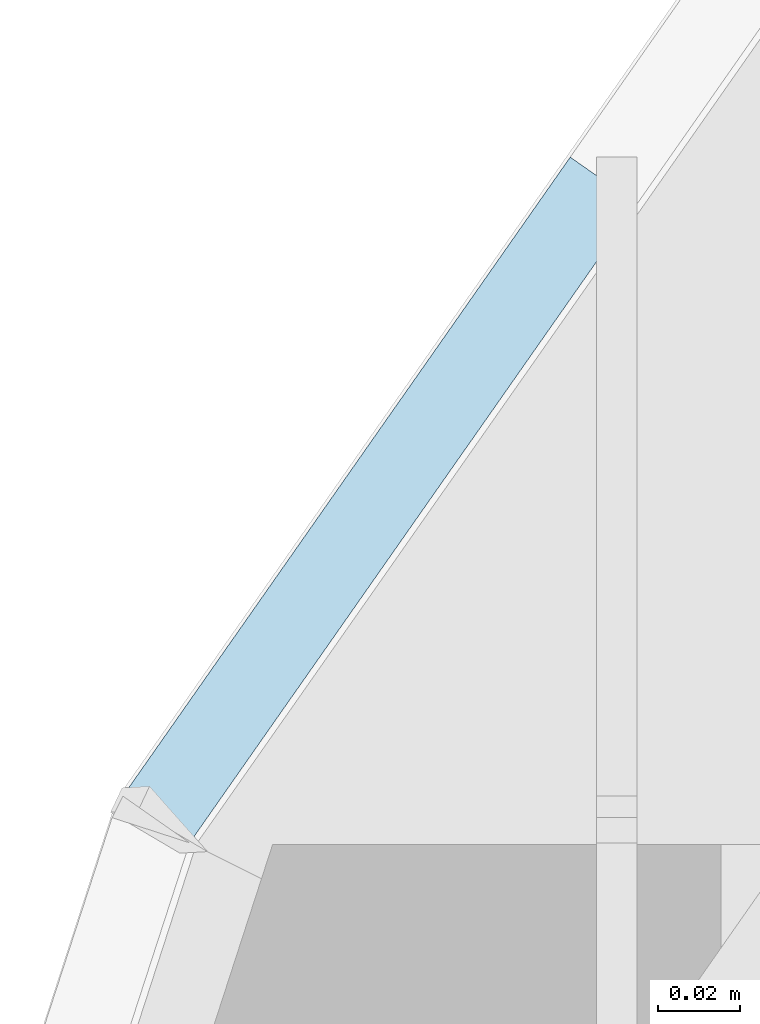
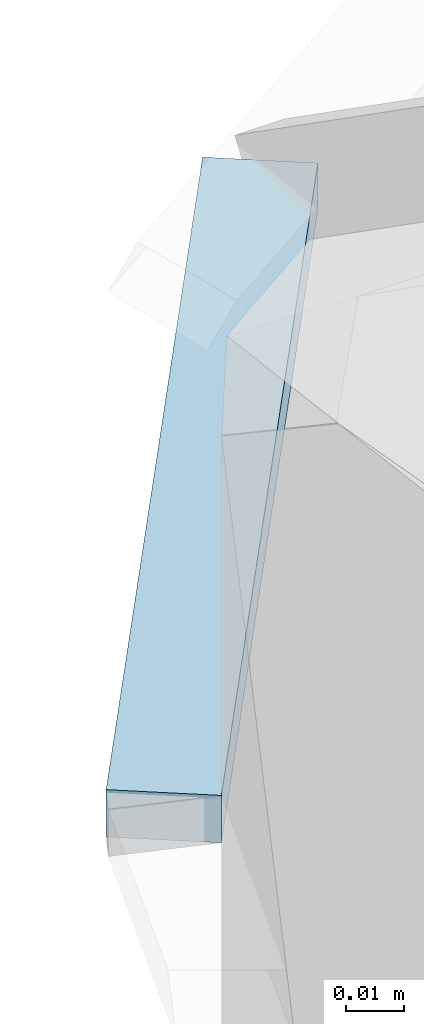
# One storey, part 304 of 583: 1 slab.
"""IFC2X3 building model written with IfcOpenShell, lengths in metres."""

from ifc_helpers import new_model, entity, si_unit, converted_unit, derived_unit, money_unit, direction, frame, origin_with_axes, place, context, subcontext, project, spatial, faceted_brep, material, type_object, element, save


model = new_model("IFC2X3")

# Units and contexts
model_context = context("Model", 3, precision=1e-05, world=origin_with_axes(), true_north=direction((0.0, 1.0)))
body_context = subcontext(model_context, "Body", "Model", "MODEL_VIEW", scale=1.0)
ifc_project = project(units=[si_unit("LENGTHUNIT", "METRE"), si_unit("AREAUNIT", "SQUARE_METRE"), si_unit("VOLUMEUNIT", "CUBIC_METRE"), si_unit("ABSORBEDDOSEUNIT", "GRAY"), si_unit("AMOUNTOFSUBSTANCEUNIT", "MOLE"), si_unit("DOSEEQUIVALENTUNIT", "SIEVERT"), si_unit("ELECTRICCAPACITANCEUNIT", "FARAD"), si_unit("ELECTRICCHARGEUNIT", "COULOMB"), si_unit("ELECTRICCONDUCTANCEUNIT", "SIEMENS"), si_unit("ELECTRICCURRENTUNIT", "AMPERE"), si_unit("ELECTRICRESISTANCEUNIT", "OHM"), si_unit("ELECTRICVOLTAGEUNIT", "VOLT"), si_unit("ENERGYUNIT", "JOULE"), si_unit("FORCEUNIT", "NEWTON"), si_unit("FREQUENCYUNIT", "HERTZ"), si_unit("ILLUMINANCEUNIT", "LUX"), si_unit("INDUCTANCEUNIT", "HENRY"), si_unit("LUMINOUSFLUXUNIT", "LUMEN"), si_unit("LUMINOUSINTENSITYUNIT", "CANDELA"), si_unit("MAGNETICFLUXDENSITYUNIT", "TESLA"), si_unit("MAGNETICFLUXUNIT", "WEBER"), si_unit("MASSUNIT", "GRAM"), converted_unit("PLANEANGLEUNIT", "degree", entity("IfcReal", 0.0174532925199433), si_unit("PLANEANGLEUNIT", "RADIAN"), dimensions=[0, 0, 0, 0, 0, 0, 0]), si_unit("POWERUNIT", "WATT"), si_unit("PRESSUREUNIT", "PASCAL"), si_unit("RADIOACTIVITYUNIT", "BECQUEREL"), si_unit("SOLIDANGLEUNIT", "STERADIAN"), si_unit("THERMODYNAMICTEMPERATUREUNIT", "KELVIN"), si_unit("TIMEUNIT", "SECOND"), derived_unit("ACCELERATIONUNIT", [(si_unit("LENGTHUNIT", "METRE"), 1), (si_unit("TIMEUNIT", "SECOND"), -2)]), derived_unit("ANGULARVELOCITYUNIT", [(converted_unit("PLANEANGLEUNIT", "degree", entity("IfcReal", 0.0174532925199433), si_unit("PLANEANGLEUNIT", "RADIAN"), dimensions=[0, 0, 0, 0, 0, 0, 0]), 1), (si_unit("TIMEUNIT", "SECOND"), -1)]), derived_unit("CURVATUREUNIT", [(converted_unit("PLANEANGLEUNIT", "degree", entity("IfcReal", 0.0174532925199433), si_unit("PLANEANGLEUNIT", "RADIAN"), dimensions=[0, 0, 0, 0, 0, 0, 0]), 1), (si_unit("LENGTHUNIT", "METRE"), -1)]), derived_unit("DYNAMICVISCOSITYUNIT", [(si_unit("PRESSUREUNIT", "PASCAL"), 1), (si_unit("TIMEUNIT", "SECOND"), 1)]), derived_unit("HEATFLUXDENSITYUNIT", [(si_unit("POWERUNIT", "WATT"), 1), (si_unit("LENGTHUNIT", "METRE"), -2)]), derived_unit("HEATINGVALUEUNIT", [(si_unit("ENERGYUNIT", "JOULE"), 1), (si_unit("MASSUNIT", "GRAM"), -1)]), derived_unit("INTEGERCOUNTRATEUNIT", [(si_unit("TIMEUNIT", "SECOND"), -1)]), derived_unit("IONCONCENTRATIONUNIT", [(si_unit("MASSUNIT", "GRAM"), 1), (si_unit("VOLUMEUNIT", "CUBIC_METRE"), -1)]), derived_unit("ISOTHERMALMOISTURECAPACITYUNIT", [(si_unit("VOLUMEUNIT", "CUBIC_METRE"), 1), (si_unit("MASSUNIT", "GRAM"), -1)]), derived_unit("KINEMATICVISCOSITYUNIT", [(si_unit("AREAUNIT", "SQUARE_METRE"), 1), (si_unit("TIMEUNIT", "SECOND"), -1)]), derived_unit("LINEARFORCEUNIT", [(si_unit("FORCEUNIT", "NEWTON"), 1), (si_unit("LENGTHUNIT", "METRE"), -1)]), derived_unit("LINEARMOMENTUNIT", [(si_unit("FORCEUNIT", "NEWTON"), 1), (si_unit("LENGTHUNIT", "METRE"), -1)]), derived_unit("LINEARSTIFFNESSUNIT", [(si_unit("FORCEUNIT", "NEWTON"), 1), (si_unit("LENGTHUNIT", "METRE"), -1)]), derived_unit("LINEARVELOCITYUNIT", [(si_unit("LENGTHUNIT", "METRE"), 1), (si_unit("TIMEUNIT", "SECOND"), -1)]), derived_unit("LUMINOUSINTENSITYDISTRIBUTIONUNIT", [(si_unit("LUMINOUSINTENSITYUNIT", "CANDELA"), 1), (si_unit("LUMINOUSFLUXUNIT", "LUMEN"), -1)]), derived_unit("MASSDENSITYUNIT", [(si_unit("MASSUNIT", "GRAM"), 1), (si_unit("VOLUMEUNIT", "CUBIC_METRE"), -1)]), derived_unit("MASSFLOWRATEUNIT", [(si_unit("MASSUNIT", "GRAM"), 1), (si_unit("TIMEUNIT", "SECOND"), -1)]), derived_unit("MASSPERLENGTHUNIT", [(si_unit("MASSUNIT", "GRAM"), 1), (si_unit("LENGTHUNIT", "METRE"), -1)]), derived_unit("MODULUSOFELASTICITYUNIT", [(si_unit("FORCEUNIT", "NEWTON"), 1), (si_unit("AREAUNIT", "SQUARE_METRE"), -1)]), derived_unit("MODULUSOFLINEARSUBGRADEREACTIONUNIT", [(si_unit("FORCEUNIT", "NEWTON"), 1), (si_unit("LENGTHUNIT", "METRE"), -2)]), derived_unit("MODULUSOFROTATIONALSUBGRADEREACTIONUNIT", [(si_unit("FORCEUNIT", "NEWTON"), 1), (si_unit("LENGTHUNIT", "METRE"), 1)]), derived_unit("MODULUSOFSUBGRADEREACTIONUNIT", [(si_unit("FORCEUNIT", "NEWTON"), 1), (si_unit("VOLUMEUNIT", "CUBIC_METRE"), -1)]), derived_unit("MOISTUREDIFFUSIVITYUNIT", [(si_unit("VOLUMEUNIT", "CUBIC_METRE"), 1), (si_unit("TIMEUNIT", "SECOND"), -1)]), derived_unit("MOLECULARWEIGHTUNIT", [(si_unit("MASSUNIT", "GRAM"), 1), (si_unit("AMOUNTOFSUBSTANCEUNIT", "MOLE"), -1)]), derived_unit("PLANARFORCEUNIT", [(si_unit("FORCEUNIT", "NEWTON"), 1), (si_unit("LENGTHUNIT", "METRE"), -2)]), derived_unit("ROTATIONALFREQUENCYUNIT", [(si_unit("TIMEUNIT", "SECOND"), -1)]), derived_unit("ROTATIONALMASSUNIT", [(si_unit("MASSUNIT", "GRAM"), 1), (si_unit("LENGTHUNIT", "METRE"), 2)]), derived_unit("ROTATIONALSTIFFNESSUNIT", [(si_unit("FORCEUNIT", "NEWTON"), 1), (si_unit("LENGTHUNIT", "METRE"), 1), (converted_unit("PLANEANGLEUNIT", "degree", entity("IfcReal", 0.0174532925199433), si_unit("PLANEANGLEUNIT", "RADIAN"), dimensions=[0, 0, 0, 0, 0, 0, 0]), -1)]), derived_unit("SECTIONAREAINTEGRALUNIT", [(si_unit("LENGTHUNIT", "METRE"), 5)]), derived_unit("SECTIONMODULUSUNIT", [(si_unit("LENGTHUNIT", "METRE"), 3)]), derived_unit("SHEARMODULUSUNIT", [(si_unit("FORCEUNIT", "NEWTON"), 1), (si_unit("AREAUNIT", "SQUARE_METRE"), -1)]), derived_unit("SOUNDPOWERUNIT", [(si_unit("ENERGYUNIT", "JOULE"), 1), (si_unit("TIMEUNIT", "SECOND"), -1)]), derived_unit("SPECIFICHEATCAPACITYUNIT", [(si_unit("FORCEUNIT", "NEWTON"), 1), (si_unit("MASSUNIT", "GRAM"), -1), (si_unit("THERMODYNAMICTEMPERATUREUNIT", "KELVIN"), -1)]), derived_unit("TEMPERATUREGRADIENTUNIT", [(si_unit("THERMODYNAMICTEMPERATUREUNIT", "KELVIN"), 1), (si_unit("LENGTHUNIT", "METRE"), -1)]), derived_unit("THERMALADMITTANCEUNIT", [(si_unit("POWERUNIT", "WATT"), 1), (si_unit("AREAUNIT", "SQUARE_METRE"), -1), (si_unit("THERMODYNAMICTEMPERATUREUNIT", "KELVIN"), -1)]), derived_unit("THERMALCONDUCTANCEUNIT", [(si_unit("POWERUNIT", "WATT"), 1), (si_unit("LENGTHUNIT", "METRE"), -1), (si_unit("THERMODYNAMICTEMPERATUREUNIT", "KELVIN"), -1)]), derived_unit("THERMALEXPANSIONCOEFFICIENTUNIT", [(si_unit("THERMODYNAMICTEMPERATUREUNIT", "KELVIN"), -1)]), derived_unit("THERMALRESISTANCEUNIT", [(si_unit("AREAUNIT", "SQUARE_METRE"), 1), (si_unit("POWERUNIT", "WATT"), -1)]), derived_unit("THERMALTRANSMITTANCEUNIT", [(si_unit("POWERUNIT", "WATT"), 1), (si_unit("AREAUNIT", "SQUARE_METRE"), -1), (si_unit("THERMODYNAMICTEMPERATUREUNIT", "KELVIN"), -1)]), derived_unit("TORQUEUNIT", [(si_unit("FORCEUNIT", "NEWTON"), 1), (si_unit("LENGTHUNIT", "METRE"), 1)]), derived_unit("VAPORPERMEABILITYUNIT", [(si_unit("MASSUNIT", "GRAM"), 1), (si_unit("TIMEUNIT", "SECOND"), -1)]), derived_unit("VOLUMETRICFLOWRATEUNIT", [(si_unit("VOLUMEUNIT", "CUBIC_METRE"), 1), (si_unit("TIMEUNIT", "SECOND"), -1)]), derived_unit("WARPINGCONSTANTUNIT", [(si_unit("LENGTHUNIT", "METRE"), 6)]), derived_unit("WARPINGMOMENTUNIT", [(si_unit("FORCEUNIT", "NEWTON"), 1), (si_unit("LENGTHUNIT", "METRE"), 2)]), money_unit("GBP")], contexts=[model_context])

# Site, building, storey
site_placement = place(None, origin_with_axes())
site = spatial("IfcSite", under=ifc_project, at=site_placement, Name="Site", CompositionType="ELEMENT")
building_placement = place(site_placement, origin_with_axes())
building = spatial("IfcBuilding", under=site, at=building_placement, Name="Building01", CompositionType="ELEMENT")
storey_placement = place(building_placement, frame((0.0, 0.0, 20.78), z_axis=(0.0, 0.0, 1.0), x_axis=(1.0, 0.0, 0.0)))
storey = spatial("IfcBuildingStorey", under=building, at=storey_placement, Name="RL", CompositionType="ELEMENT", Elevation=20.78)

# Slab
ifc_material = material(Name="A_BSUK_Roofs")
slab_type = type_object("IfcSlabType", Name="A-FloorsSlabs A_BSUK_Slabs", PredefinedType="FLOOR")
slab_placement = place(storey_placement, frame((1.33426, 18.780461, 4.760024), z_axis=(0.0, 1.0, 0.0), x_axis=(0.0, 0.0, 1.0)))
element("IfcSlab", 1, at=slab_placement, inside=storey, type_object=slab_type, material=ifc_material, Name="A-FloorsSlabs A_BSUK_Slabs", ObjectType="A-FloorsSlabs A_BSUK_Slabs", context=body_context, shape_type="Brep", body=[
    faceted_brep([(0.0, 0.0, 0.0), (0.0, -0.016383, 0.011472), (0.0, 0.093332, 0.168161), (0.0, 0.109715, 0.15669), (0.01, 0.0, 0.0), (0.01, -0.016383, 0.011472), (0.01, 0.109715, 0.15669), (0.01, 0.093332, 0.168161)], [[[0, 1, 2, 3]], [[4, 5, 1, 0]], [[6, 7, 5, 4]], [[3, 2, 7, 6]], [[1, 5, 7, 2]], [[3, 6, 4, 0]]]),
])

save(model, "model.ifc")
